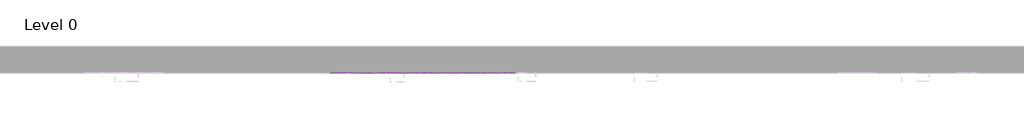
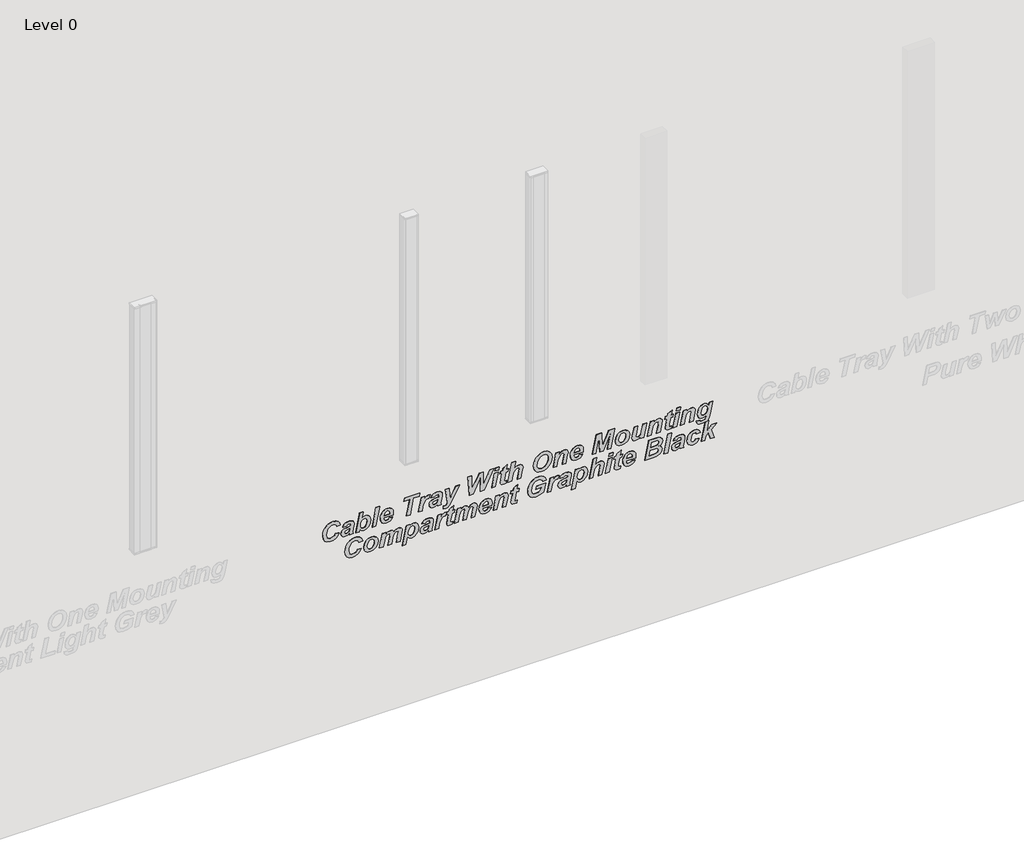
# One storey, part 4 of 5: 1 proxy.
"""IFC4 building model written with IfcOpenShell, lengths in millimetres."""

from ifc_helpers import new_model, si_unit, frame, origin, place, context, project, spatial, polyline, outline, extrude, element, save

model = new_model("IFC4")

# Units and contexts
model_context = context("Model", 3, world=origin())
ifc_project = project(units=[si_unit("LENGTHUNIT", "METRE", prefix="MILLI")], contexts=[model_context])

# Site, building, storey
site = spatial("IfcSite", under=ifc_project)
building = spatial("IfcBuilding", under=site)
storey = spatial("IfcBuildingStorey", under=building, Name="Level 0", Elevation=0.0)

# Proxy
placement = place(None, origin())
element("IfcBuildingElementProxy", 1, Name="200 mm Arial", ObjectType="200 mm Arial", at=placement, inside=storey, context=model_context, shape_type="SweptSolid", body=[
    extrude(outline(polyline([(1577.7191836, -4118.3645226), (1567.3722714, -4124.73078), (1559.9178443, -4133.7105047), (1553.9096598, -4156.3109512), (1556.3557164, -4168.4993812), (1563.693886, -4178.5021714), (1575.5242431, -4185.1846491), (1591.4468622, -4187.4121417), (1607.8670631, -4185.7008321), (1624.3151658, -4180.5669036), (1638.60088, -4172.5823425), (1648.5339158, -4162.3191357), (1654.3514381, -4150.4841283), (1656.2906122, -4137.7841655), (1654.881572, -4126.9722235), (1650.6544515, -4118.5691357), (1643.2930303, -4112.5376997), (1632.4810884, -4108.8407131), (1635.2340646, -4080.2692845), (1654.8118175, -4085.9938009), (1669.7950765, -4097.8846119), (1679.3095854, -4115.1697681), (1682.4810884, -4137.0773202), (1679.6769589, -4157.8408991), (1671.2645705, -4176.9768738), (1657.5601434, -4193.3040687), (1638.8798979, -4205.6413083), (1616.6235735, -4213.3980047), (1592.1909098, -4215.9835702), (1564.4844366, -4212.1796268), (1544.2370408, -4200.7677964), (1531.8486479, -4182.5944333), (1527.7191836, -4158.5058917), (1530.6953741, -4136.0356536), (1539.6239455, -4116.6160107), (1554.1886777, -4100.9631089), (1574.0733503, -4089.793094), (1577.7191836, -4118.3645226)])), frame((0.0, 4018.0812827, 0.0), z_axis=(0.0, 1.0, 0.0), x_axis=(0.0, 0.0, 1.0)), (0.0, 0.0, 1.0), 3.0),
    extrude(outline(polyline([(1608.6715646, -4035.0311893), (1617.4699277, -4028.8927964), (1620.5763265, -4016.5788083), (1617.3211181, -4005.4552964), (1609.2296003, -4001.6978559), (1599.147755, -4003.6323797), (1594.9810884, -4031.5341655), (1591.2189976, -4052.4930568), (1583.8017729, -4065.8905643), (1573.0084321, -4073.1031759), (1559.1179931, -4075.5073797), (1546.5435884, -4073.3403411), (1536.4989455, -4066.839225), (1529.9141241, -4057.0084958), (1527.7191836, -4044.8526178), (1531.4394217, -4028.2231536), (1542.2281122, -4013.6026178), (1530.100136, -4011.2216655), (1530.100136, -3982.1294036), (1545.6507312, -3985.0311893), (1573.0316836, -3980.4924988), (1602.2541539, -3974.0378857), (1612.7638265, -3973.1264274), (1624.0687, -3975.6329378), (1633.5041539, -3983.152469), (1639.8797119, -3995.9082354), (1642.0048979, -4014.1234512), (1639.9541167, -4032.2735628), (1633.8017729, -4046.4709214), (1624.0035958, -4056.8643366), (1611.0153146, -4063.6026178), (1608.6715646, -4035.0311893)]), holes=[polyline([(1580.100136, -4007.761844), (1576.2310884, -4008.6174988), (1560.568886, -4013.5840167), (1552.3471598, -4022.0289571), (1549.147755, -4034.0639274), (1552.6447789, -4043.401725), (1561.2385289, -4046.9359512), (1571.0599574, -4042.3228559), (1578.7980527, -4014.5698797), (1580.100136, -4007.761844)])]), frame((0.0, 4018.0812827, 0.0), z_axis=(0.0, 1.0, 0.0), x_axis=(0.0, 0.0, 1.0)), (0.0, 0.0, 1.0), 3.0),
    extrude(outline(polyline([(1530.100136, -3963.6026178), (1530.100136, -3936.9285107), (1547.3248384, -3933.1710702), (1532.6205973, -3919.4154899), (1527.7191836, -3899.5773202), (1531.9788562, -3881.1807428), (1545.036892, -3864.4396714), (1567.8605527, -3851.6978559), (1596.7668027, -3846.9359512), (1616.2329485, -3849.5075658), (1630.4349574, -3857.2224095), (1639.1124128, -3869.2062265), (1642.0048979, -3884.5847607), (1639.3635289, -3899.8191357), (1630.5465646, -3914.8302964), (1680.100136, -3903.8927964), (1680.100136, -3932.9850583), (1530.100136, -3963.6026178)]), holes=[polyline([(1574.1105527, -3925.5073797), (1594.116133, -3922.7916059), (1610.2340646, -3914.6442845), (1617.990761, -3905.9854303), (1620.5763265, -3895.7826774), (1618.9068696, -3887.9934289), (1613.8984991, -3881.4411595), (1605.9697417, -3876.9908247), (1595.5391241, -3875.5073797), (1571.7109991, -3879.9158619), (1554.5234991, -3890.964969), (1549.147755, -3904.9344631), (1550.8823161, -3912.6911595), (1556.0859991, -3919.3689869), (1564.0612595, -3923.9727815), (1574.1105527, -3925.5073797)])]), frame((0.0, 4018.0812827, 0.0), z_axis=(0.0, 1.0, 0.0), x_axis=(0.0, 0.0, 1.0)), (0.0, 0.0, 1.0), 3.0),
    extrude(outline(polyline([(1530.100136, -3837.4121417), (1530.100136, -3808.3198797), (1680.100136, -3777.7395226), (1680.100136, -3806.7945821), (1530.100136, -3837.4121417)])), frame((0.0, 4018.0812827, 0.0), z_axis=(0.0, 1.0, 0.0), x_axis=(0.0, 0.0, 1.0)), (0.0, 0.0, 1.0), 3.0),
    extrude(outline(polyline([(1575.3382312, -3675.1353559), (1594.6834693, -3673.1264274), (1614.5960437, -3676.0189125), (1629.5421003, -3684.6963678), (1638.8891985, -3698.2845375), (1642.0048979, -3715.9091655), (1640.5284284, -3730.4250695), (1636.0990199, -3743.1692101), (1628.7166725, -3754.1415873), (1618.381386, -3763.3422012), (1599.6685884, -3772.4660851), (1578.5004336, -3775.5073797), (1557.8298607, -3772.1173128), (1541.6514753, -3761.9471119), (1531.2022565, -3746.354664), (1527.7191836, -3726.6978559), (1529.6537074, -3711.6634437), (1535.4572789, -3698.1822309), (1545.1298979, -3686.7564497), (1558.6715646, -3677.8883321), (1563.4334693, -3704.0788083), (1552.7191836, -3713.6119184), (1549.147755, -3726.2886297), (1550.7707089, -3734.324344), (1555.6395705, -3741.0207726), (1563.1591018, -3745.5408619), (1572.7340646, -3747.0475583), (1575.3382312, -3746.9359512), (1575.3382312, -3675.1353559)]), holes=[polyline([(1592.0048979, -3701.6978559), (1592.0048979, -3744.0341655), (1604.411892, -3740.6115464), (1613.3590646, -3735.0311893), (1618.772011, -3727.9441357), (1620.5763265, -3720.0014274), (1618.9859247, -3712.4446937), (1614.2147193, -3706.589969), (1606.2627104, -3702.8371789), (1595.1298979, -3701.5862488), (1592.0048979, -3701.6978559)])]), frame((0.0, 4018.0812827, 0.0), z_axis=(0.0, 1.0, 0.0), x_axis=(0.0, 0.0, 1.0)), (0.0, 0.0, 1.0), 3.0),
    extrude(outline(polyline([(1530.100136, -3545.5594631), (1656.2906122, -3520.0758321), (1656.2906122, -3475.5073797), (1680.100136, -3470.745475), (1680.100136, -3587.4121417), (1656.2906122, -3592.1740464), (1656.2906122, -3549.168094), (1530.100136, -3574.651725), (1530.100136, -3545.5594631)])), frame((0.0, 4018.0812827, 0.0), z_axis=(0.0, 1.0, 0.0), x_axis=(0.0, 0.0, 1.0)), (0.0, 0.0, 1.0), 3.0),
    extrude(outline(polyline([(1639.6239455, -3460.5148202), (1530.100136, -3482.6502369), (1530.100136, -3453.5951774), (1563.9171003, -3446.7871417), (1594.5718622, -3438.0445821), (1610.0294515, -3425.730594), (1615.8144217, -3410.2544036), (1614.4007312, -3401.6978559), (1638.7682908, -3389.793094), (1642.0048979, -3403.1115464), (1636.1920259, -3420.0386297), (1618.7534098, -3435.7008321), (1639.6239455, -3431.4597607), (1639.6239455, -3460.5148202)])), frame((0.0, 4018.0812827, 0.0), z_axis=(0.0, 1.0, 0.0), x_axis=(0.0, 0.0, 1.0)), (0.0, 0.0, 1.0), 3.0),
    extrude(outline(polyline([(1608.6715646, -3358.8407131), (1617.4699277, -3352.7023202), (1620.5763265, -3340.3883321), (1617.3211181, -3329.2648202), (1609.2296003, -3325.5073797), (1599.147755, -3327.4419036), (1594.9810884, -3355.3436893), (1591.2189976, -3376.3025806), (1583.8017729, -3389.7000881), (1573.0084321, -3396.9126997), (1559.1179931, -3399.3169036), (1546.5435884, -3397.1498649), (1536.4989455, -3390.6487488), (1529.9141241, -3380.8180196), (1527.7191836, -3368.6621417), (1531.4394217, -3352.0326774), (1542.2281122, -3337.4121417), (1530.100136, -3335.0311893), (1530.100136, -3305.9389274), (1545.6507312, -3308.8407131), (1573.0316836, -3304.3020226), (1602.2541539, -3297.8474095), (1612.7638265, -3296.9359512), (1624.0687, -3299.4424616), (1633.5041539, -3306.9619928), (1639.8797119, -3319.7177592), (1642.0048979, -3337.932975), (1639.9541167, -3356.0830866), (1633.8017729, -3370.2804452), (1624.0035958, -3380.6738604), (1611.0153146, -3387.4121417), (1608.6715646, -3358.8407131)]), holes=[polyline([(1580.100136, -3331.5713678), (1576.2310884, -3332.4270226), (1560.568886, -3337.3935405), (1552.3471598, -3345.8384809), (1549.147755, -3357.8734512), (1552.6447789, -3367.2112488), (1561.2385289, -3370.745475), (1571.0599574, -3366.1323797), (1578.7980527, -3338.3794036), (1580.100136, -3331.5713678)])]), frame((0.0, 4018.0812827, 0.0), z_axis=(0.0, 1.0, 0.0), x_axis=(0.0, 0.0, 1.0)), (0.0, 0.0, 1.0), 3.0),
    extrude(outline(polyline([(1639.6239455, -3275.5073797), (1530.100136, -3258.8407131), (1514.0287074, -3268.2529155), (1508.6715646, -3279.9716655), (1510.1968622, -3289.793094), (1490.2191836, -3292.1740464), (1487.2429931, -3271.8987488), (1490.3679931, -3256.3295524), (1498.9803443, -3245.2432428), (1518.1953741, -3232.6502369), (1639.6239455, -3165.574344), (1639.6239455, -3196.9359512), (1589.1403146, -3220.8942845), (1556.2906122, -3236.4820821), (1584.1551955, -3239.8674988), (1639.6239455, -3246.6383321), (1639.6239455, -3275.5073797)])), frame((0.0, 4018.0812827, 0.0), z_axis=(0.0, 1.0, 0.0), x_axis=(0.0, 0.0, 1.0)), (0.0, 0.0, 1.0), 3.0),
    extrude(outline(polyline([(1530.100136, -2975.5073797), (1680.100136, -2904.0788083), (1680.100136, -2932.6502369), (1576.2310884, -2982.6502369), (1680.100136, -2985.0311893), (1680.100136, -3014.9419036), (1575.115017, -3070.745475), (1680.100136, -3073.1264274), (1680.100136, -3101.6978559), (1530.100136, -3092.1740464), (1530.100136, -3061.2216655), (1639.772755, -3008.8407131), (1530.100136, -3006.4597607), (1530.100136, -2975.5073797)])), frame((0.0, 4018.0812827, 0.0), z_axis=(0.0, 1.0, 0.0), x_axis=(0.0, 0.0, 1.0)), (0.0, 0.0, 1.0), 3.0),
    extrude(outline(polyline([(1639.6239455, -2898.386844), (1530.100136, -2920.745475), (1530.100136, -2891.6532131), (1639.6239455, -2869.2945821), (1639.6239455, -2898.386844)])), frame((0.0, 4018.0812827, 0.0), z_axis=(0.0, 1.0, 0.0), x_axis=(0.0, 0.0, 1.0)), (0.0, 0.0, 1.0), 3.0),
    extrude(outline(polyline([(1680.100136, -2890.1279155), (1656.2906122, -2895.0014274), (1656.2906122, -2865.9091655), (1680.100136, -2861.0356536), (1680.100136, -2890.1279155)])), frame((0.0, 4018.0812827, 0.0), z_axis=(0.0, 1.0, 0.0), x_axis=(0.0, 0.0, 1.0)), (0.0, 0.0, 1.0), 3.0),
    extrude(outline(polyline([(1618.1953741, -2856.4597607), (1618.1953741, -2840.574344), (1572.6596598, -2849.5773202), (1549.929005, -2854.0788083), (1540.6191092, -2852.3116952), (1533.5971598, -2847.0103559), (1529.1886777, -2837.8213678), (1527.7191836, -2824.3913083), (1529.1328741, -2808.8407131), (1549.147755, -2804.0788083), (1548.4781122, -2813.8630345), (1550.3754336, -2821.7127369), (1555.6581717, -2823.870475), (1569.7206717, -2821.043094), (1618.1953741, -2811.4076774), (1618.1953741, -2794.5549988), (1639.6239455, -2789.793094), (1639.6239455, -2807.1294036), (1675.3382312, -2799.9865464), (1656.2906122, -2832.8362488), (1639.6239455, -2836.3332726), (1639.6239455, -2851.6978559), (1618.1953741, -2856.4597607)])), frame((0.0, 4018.0812827, 0.0), z_axis=(0.0, 1.0, 0.0), x_axis=(0.0, 0.0, 1.0)), (0.0, 0.0, 1.0), 3.0),
    extrude(outline(polyline([(1530.100136, -2765.4627369), (1573.0316836, -2756.682975), (1598.7013265, -2750.0981536), (1615.4051955, -2736.5564869), (1620.5763265, -2722.2707726), (1617.1351062, -2712.9701774), (1607.9647193, -2709.5475583), (1594.3858503, -2712.2261297), (1530.100136, -2725.5073797), (1530.100136, -2696.4151178), (1593.1581717, -2683.3942845), (1612.9498384, -2679.339225), (1624.7197417, -2681.2876997), (1633.9877848, -2687.1331238), (1640.0006196, -2696.3360628), (1642.0048979, -2708.3570821), (1638.2474574, -2727.0698797), (1625.9706717, -2745.8942845), (1680.100136, -2734.8451774), (1680.100136, -2763.9374393), (1530.100136, -2794.5549988), (1530.100136, -2765.4627369)])), frame((0.0, 4018.0812827, 0.0), z_axis=(0.0, 1.0, 0.0), x_axis=(0.0, 0.0, 1.0)), (0.0, 0.0, 1.0), 3.0),
    extrude(outline(polyline([(1589.0287074, -2599.3169036), (1560.7176955, -2593.5133321), (1547.8270705, -2585.6822309), (1537.2057908, -2573.7960702), (1530.0908354, -2558.2268738), (1527.7191836, -2539.3466655), (1530.7046747, -2516.9508321), (1539.6611479, -2497.0103559), (1554.1514753, -2480.246033), (1573.7385289, -2467.3786595), (1596.2552699, -2459.1894854), (1619.5346598, -2456.4597607), (1645.1903518, -2460.6496789), (1665.2377848, -2473.2194333), (1678.1702625, -2492.5972235), (1682.4810884, -2517.2112488), (1680.3791539, -2536.44953), (1674.0733503, -2553.464969), (1664.1449649, -2568.0111), (1651.1752848, -2579.8414571), (1635.3782238, -2588.9699914), (1616.9676955, -2595.4106536), (1589.0287074, -2599.3169036)]), holes=[polyline([(1589.772755, -2570.745475), (1613.6427327, -2567.1600955), (1635.47588, -2556.4039571), (1651.0869292, -2539.9279527), (1656.2906122, -2519.182975), (1653.802703, -2505.6134065), (1646.3389753, -2494.6666059), (1634.5039678, -2487.4400434), (1618.9022193, -2485.0311893), (1603.021453, -2486.933161), (1586.7035586, -2492.6390762), (1572.2690348, -2501.2560777), (1562.03838, -2511.8913083), (1555.9418399, -2523.7867696), (1553.9096598, -2536.1844631), (1556.4859247, -2550.2004601), (1564.2147193, -2561.2216655), (1575.756758, -2568.3645226), (1589.772755, -2570.745475)])]), frame((0.0, 4018.0812827, 0.0), z_axis=(0.0, 1.0, 0.0), x_axis=(0.0, 0.0, 1.0)), (0.0, 0.0, 1.0), 3.0),
    extrude(outline(polyline([(1639.6239455, -2427.1814869), (1530.100136, -2449.3169036), (1530.100136, -2420.261844), (1574.5569812, -2411.2588678), (1600.6730527, -2402.8139274), (1615.1075765, -2390.7045524), (1620.5763265, -2376.6606536), (1617.1723086, -2367.6018738), (1607.8159098, -2364.3466655), (1591.3724574, -2367.620475), (1530.100136, -2380.2692845), (1530.100136, -2351.1770226), (1591.1492431, -2338.5654155), (1612.3546003, -2334.2127369), (1624.4546747, -2336.1379601), (1633.8947789, -2341.9136297), (1639.9773681, -2351.0189125), (1642.0048979, -2362.932975), (1637.8010289, -2381.9619928), (1623.7013265, -2401.3630345), (1639.6239455, -2398.1264274), (1639.6239455, -2427.1814869)])), frame((0.0, 4018.0812827, 0.0), z_axis=(0.0, 1.0, 0.0), x_axis=(0.0, 0.0, 1.0)), (0.0, 0.0, 1.0), 3.0),
    extrude(outline(polyline([(1575.3382312, -2217.9924988), (1594.6834693, -2215.9835702), (1614.5960437, -2218.8760553), (1629.5421003, -2227.5535107), (1638.8891985, -2241.1416803), (1642.0048979, -2258.7663083), (1640.5284284, -2273.2822123), (1636.0990199, -2286.026353), (1628.7166725, -2296.9987302), (1618.381386, -2306.199344), (1599.6685884, -2315.323228), (1578.5004336, -2318.3645226), (1557.8298607, -2314.9744556), (1541.6514753, -2304.8042547), (1531.2022565, -2289.2118068), (1527.7191836, -2269.5549988), (1529.6537074, -2254.5205866), (1535.4572789, -2241.0393738), (1545.1298979, -2229.6135925), (1558.6715646, -2220.745475), (1563.4334693, -2246.9359512), (1552.7191836, -2256.4690613), (1549.147755, -2269.1457726), (1550.7707089, -2277.1814869), (1555.6395705, -2283.8779155), (1563.1591018, -2288.3980047), (1572.7340646, -2289.9047012), (1575.3382312, -2289.793094), (1575.3382312, -2217.9924988)]), holes=[polyline([(1592.0048979, -2244.5549988), (1592.0048979, -2286.8913083), (1604.411892, -2283.4686893), (1613.3590646, -2277.8883321), (1618.772011, -2270.8012786), (1620.5763265, -2262.8585702), (1618.9859247, -2255.3018366), (1614.2147193, -2249.4471119), (1606.2627104, -2245.6943217), (1595.1298979, -2244.4433917), (1592.0048979, -2244.5549988)])]), frame((0.0, 4018.0812827, 0.0), z_axis=(0.0, 1.0, 0.0), x_axis=(0.0, 0.0, 1.0)), (0.0, 0.0, 1.0), 3.0),
    extrude(outline(polyline([(1530.100136, -2063.6026178), (1653.9096598, -2010.0311893), (1530.100136, -2035.0311893), (1530.100136, -2005.9389274), (1680.100136, -1977.776725), (1680.100136, -2023.7588678), (1572.6596598, -2070.745475), (1680.100136, -2075.3213678), (1680.100136, -2119.0713678), (1530.100136, -2149.7261297), (1530.100136, -2120.745475), (1653.9840646, -2098.1264274), (1530.100136, -2092.1740464), (1530.100136, -2063.6026178)])), frame((0.0, 4018.0812827, 0.0), z_axis=(0.0, 1.0, 0.0), x_axis=(0.0, 0.0, 1.0)), (0.0, 0.0, 1.0), 3.0),
    extrude(outline(polyline([(1575.5986479, -1973.1264274), (1551.3612967, -1967.3414571), (1541.3492059, -1960.0590911), (1533.8947789, -1949.7819333), (1529.2630824, -1937.1470747), (1527.7191836, -1922.7916059), (1532.5508428, -1897.5404899), (1547.0458205, -1877.9627369), (1568.162822, -1865.4069333), (1592.8605527, -1861.2216655), (1613.0707461, -1864.5698797), (1628.6864455, -1874.6145226), (1638.6752848, -1890.620847), (1642.0048979, -1911.8541059), (1637.4941092, -1936.6959958), (1623.9617431, -1956.2365464), (1602.849392, -1968.9039571), (1575.5986479, -1973.1264274)]), holes=[polyline([(1596.7296003, -1889.793094), (1576.6496152, -1892.7413827), (1559.8620408, -1901.5862488), (1551.8263265, -1910.8310405), (1549.147755, -1922.0475583), (1550.9241687, -1930.9296268), (1556.2534098, -1938.1561893), (1564.5960437, -1942.9552964), (1575.412636, -1944.5549988), (1596.7854039, -1940.4255345), (1614.475136, -1928.855594), (1619.0510289, -1920.8756833), (1620.5763265, -1911.8169036), (1618.9487223, -1902.995289), (1614.0659098, -1895.9500881), (1606.4766241, -1891.3323425), (1596.7296003, -1889.793094)])]), frame((0.0, 4018.0812827, 0.0), z_axis=(0.0, 1.0, 0.0), x_axis=(0.0, 0.0, 1.0)), (0.0, 0.0, 1.0), 3.0),
    extrude(outline(polyline([(1639.6239455, -1826.9582726), (1578.2028146, -1840.7231536), (1555.4721598, -1844.480594), (1544.0742803, -1842.6437265), (1535.2526658, -1837.1331238), (1529.6025542, -1828.4045152), (1527.7191836, -1816.9136297), (1532.0811628, -1797.3916803), (1545.1671003, -1779.3764274), (1530.100136, -1782.464225), (1530.100136, -1753.557975), (1639.6239455, -1731.199344), (1639.6239455, -1760.2916059), (1586.2013265, -1771.0802964), (1571.3947789, -1775.0981536), (1561.5547491, -1780.8459214), (1554.9141241, -1787.7655643), (1550.5800467, -1795.2990464), (1549.147755, -1802.7395226), (1552.5331717, -1811.3518738), (1560.6432908, -1814.7186893), (1575.115017, -1812.1145226), (1639.6239455, -1797.8660107), (1639.6239455, -1826.9582726)])), frame((0.0, 4018.0812827, 0.0), z_axis=(0.0, 1.0, 0.0), x_axis=(0.0, 0.0, 1.0)), (0.0, 0.0, 1.0), 3.0),
    extrude(outline(polyline([(1639.6239455, -1703.3719631), (1530.100136, -1725.5073797), (1530.100136, -1696.4523202), (1574.5569812, -1687.449344), (1600.6730527, -1679.0044036), (1615.1075765, -1666.8950286), (1620.5763265, -1652.8511297), (1617.1723086, -1643.79235), (1607.8159098, -1640.5371417), (1591.3724574, -1643.8109512), (1530.100136, -1656.4597607), (1530.100136, -1627.3674988), (1591.1492431, -1614.7558917), (1612.3546003, -1610.4032131), (1624.4546747, -1612.3284363), (1633.8947789, -1618.1041059), (1639.9773681, -1627.2093887), (1642.0048979, -1639.1234512), (1637.8010289, -1658.152469), (1623.7013265, -1677.5535107), (1639.6239455, -1674.3169036), (1639.6239455, -1703.3719631)])), frame((0.0, 4018.0812827, 0.0), z_axis=(0.0, 1.0, 0.0), x_axis=(0.0, 0.0, 1.0)), (0.0, 0.0, 1.0), 3.0),
    extrude(outline(polyline([(1618.1953741, -1592.1740464), (1618.1953741, -1576.2886297), (1572.6596598, -1585.2916059), (1549.929005, -1589.793094), (1540.6191092, -1588.0259809), (1533.5971598, -1582.7246417), (1529.1886777, -1573.5356536), (1527.7191836, -1560.105594), (1529.1328741, -1544.5549988), (1549.147755, -1539.793094), (1548.4781122, -1549.5773202), (1550.3754336, -1557.4270226), (1555.6581717, -1559.5847607), (1569.7206717, -1556.7573797), (1618.1953741, -1547.1219631), (1618.1953741, -1530.2692845), (1639.6239455, -1525.5073797), (1639.6239455, -1542.8436893), (1675.3382312, -1535.7008321), (1656.2906122, -1568.5505345), (1639.6239455, -1572.0475583), (1639.6239455, -1587.4121417), (1618.1953741, -1592.1740464)])), frame((0.0, 4018.0812827, 0.0), z_axis=(0.0, 1.0, 0.0), x_axis=(0.0, 0.0, 1.0)), (0.0, 0.0, 1.0), 3.0),
    extrude(outline(polyline([(1639.6239455, -1507.9106536), (1530.100136, -1530.2692845), (1530.100136, -1501.1770226), (1639.6239455, -1478.8183917), (1639.6239455, -1507.9106536)])), frame((0.0, 4018.0812827, 0.0), z_axis=(0.0, 1.0, 0.0), x_axis=(0.0, 0.0, 1.0)), (0.0, 0.0, 1.0), 3.0),
    extrude(outline(polyline([(1680.100136, -1499.651725), (1656.2906122, -1504.5252369), (1656.2906122, -1475.432975), (1680.100136, -1470.5594631), (1680.100136, -1499.651725)])), frame((0.0, 4018.0812827, 0.0), z_axis=(0.0, 1.0, 0.0), x_axis=(0.0, 0.0, 1.0)), (0.0, 0.0, 1.0), 3.0),
    extrude(outline(polyline([(1639.6239455, -1450.9910107), (1530.100136, -1473.1264274), (1530.100136, -1444.0713678), (1574.5569812, -1435.0683917), (1600.6730527, -1426.6234512), (1615.1075765, -1414.5140762), (1620.5763265, -1400.4701774), (1617.1723086, -1391.4113976), (1607.8159098, -1388.1561893), (1591.3724574, -1391.4299988), (1530.100136, -1404.0788083), (1530.100136, -1374.9865464), (1591.1492431, -1362.3749393), (1612.3546003, -1358.0222607), (1624.4546747, -1359.9474839), (1633.8947789, -1365.7231536), (1639.9773681, -1374.8284363), (1642.0048979, -1386.7424988), (1637.8010289, -1405.7715167), (1623.7013265, -1425.1725583), (1639.6239455, -1421.9359512), (1639.6239455, -1450.9910107)])), frame((0.0, 4018.0812827, 0.0), z_axis=(0.0, 1.0, 0.0), x_axis=(0.0, 0.0, 1.0)), (0.0, 0.0, 1.0), 3.0),
    extrude(outline(polyline([(1520.5763265, -1350.0981536), (1516.8560884, -1350.3957726), (1503.2028146, -1347.3033247), (1494.0882312, -1338.0259809), (1488.9543027, -1322.6939497), (1487.2429931, -1301.4374393), (1488.8240943, -1283.0036595), (1494.0324277, -1268.2529155), (1502.9982015, -1257.9106536), (1517.3583205, -1250.6375881), (1547.4736479, -1242.8436893), (1639.6239455, -1223.870475), (1639.6239455, -1252.9255345), (1620.3159098, -1256.9061893), (1636.2943324, -1270.3920524), (1642.0048979, -1289.4582726), (1639.9541167, -1302.5674616), (1633.8017729, -1315.4069333), (1623.6501732, -1326.6932056), (1609.6016241, -1335.1427964), (1592.8047491, -1340.4162339), (1574.4081717, -1342.1740464), (1555.2907982, -1339.5884809), (1541.3910586, -1331.8317845), (1532.9228667, -1320.0386297), (1530.100136, -1305.3436893), (1533.2344366, -1288.8630345), (1542.6373384, -1272.9032131), (1537.5406122, -1273.9820821), (1520.9483503, -1278.2975583), (1512.1685884, -1285.3288083), (1508.6715646, -1300.6933917), (1509.8248384, -1312.54235), (1512.615017, -1318.8109512), (1517.4885289, -1320.745475), (1520.5763265, -1350.0981536)]), holes=[polyline([(1576.975136, -1313.6026178), (1595.0182908, -1310.2916059), (1614.3263265, -1299.2424988), (1620.5763265, -1284.5475583), (1618.8045631, -1276.8838678), (1613.4892729, -1270.1874393), (1605.2814976, -1265.5278411), (1594.8322789, -1263.9746417), (1573.9989455, -1267.8064869), (1557.3694812, -1278.855594), (1551.5287074, -1293.7365464), (1553.1563116, -1301.5443961), (1558.0391241, -1307.9292547), (1566.0283354, -1312.1842771), (1576.975136, -1313.6026178)])]), frame((0.0, 4018.0812827, 0.0), z_axis=(0.0, 1.0, 0.0), x_axis=(0.0, 0.0, 1.0)), (0.0, 0.0, 1.0), 3.0),
    extrude(outline(polyline([(1389.6239455, -3946.9359512), (1379.2770333, -3953.3022086), (1371.8226062, -3962.2819333), (1365.8144217, -3984.8823797), (1368.2604783, -3997.0708098), (1375.5986479, -4007.0736), (1387.429005, -4013.7560777), (1403.3516241, -4015.9835702), (1419.771825, -4014.2722607), (1436.2199277, -4009.1383321), (1450.505642, -4001.1537711), (1460.4386777, -3990.8905643), (1466.2562, -3979.0555568), (1468.1953741, -3966.355594), (1466.7863339, -3955.5436521), (1462.5592134, -3947.1405643), (1455.1977923, -3941.1091283), (1444.3858503, -3937.4121417), (1447.1388265, -3908.8407131), (1466.7165795, -3914.5652295), (1481.6998384, -3926.4560405), (1491.2143473, -3943.7411967), (1494.3858503, -3965.6487488), (1491.5817208, -3986.4123277), (1483.1693324, -4005.5483024), (1469.4649053, -4021.8754973), (1450.7846598, -4034.2127369), (1428.5283354, -4041.9694333), (1404.0956717, -4044.5549988), (1376.3891985, -4040.7510553), (1356.1418027, -4029.339225), (1343.7534098, -4011.1658619), (1339.6239455, -3987.0773202), (1342.600136, -3964.6070821), (1351.5287074, -3945.1874393), (1366.0934396, -3929.5345375), (1385.9781122, -3918.3645226), (1389.6239455, -3946.9359512)])), frame((0.0, 4018.0812827, 0.0), z_axis=(0.0, 1.0, 0.0), x_axis=(0.0, 0.0, 1.0)), (0.0, 0.0, 1.0), 3.0),
    extrude(outline(polyline([(1387.5034098, -3901.6978559), (1363.2660586, -3895.9128857), (1353.2539678, -3888.6305196), (1345.7995408, -3878.3533619), (1341.1678443, -3865.7185033), (1339.6239455, -3851.3630345), (1344.4556048, -3826.1119184), (1358.9505824, -3806.5341655), (1380.0675839, -3793.9783619), (1404.7653146, -3789.793094), (1424.975508, -3793.1413083), (1440.5912074, -3803.1859512), (1450.5800467, -3819.1922756), (1453.9096598, -3840.4255345), (1449.3988711, -3865.2674244), (1435.866505, -3884.807975), (1414.7541539, -3897.4753857), (1387.5034098, -3901.6978559)]), holes=[polyline([(1408.6343622, -3818.3645226), (1388.5543771, -3821.3128113), (1371.7668027, -3830.1576774), (1363.7310884, -3839.402469), (1361.052517, -3850.6189869), (1362.8289306, -3859.5010553), (1368.1581717, -3866.7276178), (1376.5008056, -3871.526725), (1387.3173979, -3873.1264274), (1408.6901658, -3868.9969631), (1426.3798979, -3857.4270226), (1430.9557908, -3849.4471119), (1432.4810884, -3840.3883321), (1430.8534842, -3831.5667175), (1425.9706717, -3824.5215167), (1418.381386, -3819.9037711), (1408.6343622, -3818.3645226)])]), frame((0.0, 4018.0812827, 0.0), z_axis=(0.0, 1.0, 0.0), x_axis=(0.0, 0.0, 1.0)), (0.0, 0.0, 1.0), 3.0),
    extrude(outline(polyline([(1451.5287074, -3758.1338678), (1342.0048979, -3780.2692845), (1342.0048979, -3751.214225), (1391.5584693, -3741.1695821), (1408.4855527, -3735.9984512), (1421.5807908, -3729.5252369), (1429.5793027, -3720.745475), (1432.4810884, -3711.0356536), (1429.709511, -3703.1301476), (1422.6224574, -3700.2469631), (1407.8531122, -3702.5907131), (1342.0048979, -3715.9835702), (1342.0048979, -3686.8913083), (1390.6284098, -3676.8466655), (1420.6507312, -3666.057975), (1429.5234991, -3656.7573797), (1432.4810884, -3646.2663083), (1429.5607015, -3638.0445821), (1421.5807908, -3635.2916059), (1407.4066836, -3638.230594), (1342.0048979, -3651.6978559), (1342.0048979, -3622.605594), (1407.4066836, -3609.1383321), (1426.4171003, -3605.2320821), (1437.6196673, -3607.0456982), (1446.3761777, -3612.4865464), (1452.0262893, -3621.182603), (1453.9096598, -3632.761844), (1448.2734991, -3654.636844), (1434.2668027, -3670.7826774), (1448.6827253, -3679.2834214), (1452.6029262, -3687.3330866), (1453.9096598, -3698.2008321), (1449.4825765, -3715.6022458), (1436.2013265, -3732.1666059), (1451.5287074, -3729.0788083), (1451.5287074, -3758.1338678)])), frame((0.0, 4018.0812827, 0.0), z_axis=(0.0, 1.0, 0.0), x_axis=(0.0, 0.0, 1.0)), (0.0, 0.0, 1.0), 3.0),
    extrude(outline(polyline([(1451.5287074, -3575.5073797), (1299.147755, -3606.4597607), (1299.147755, -3577.4047012), (1356.6998384, -3565.6859512), (1343.8929187, -3552.2279899), (1339.6239455, -3533.5802964), (1343.9673235, -3514.3466655), (1356.9974574, -3497.8660107), (1379.6351062, -3484.6684661), (1406.8486479, -3480.2692845), (1427.3797119, -3482.7711446), (1442.0979039, -3490.276725), (1450.9567208, -3501.8931684), (1453.9096598, -3516.7276178), (1450.6916539, -3532.7804452), (1439.9959693, -3548.8332726), (1451.5287074, -3546.4895226), (1451.5287074, -3575.5073797)]), holes=[polyline([(1388.3590646, -3559.324344), (1408.7831717, -3555.5297012), (1426.4729039, -3544.8340167), (1432.4810884, -3529.5252369), (1430.8395333, -3521.3128113), (1425.9148681, -3514.6814869), (1417.9024053, -3510.3009065), (1406.9974574, -3508.8407131), (1384.099392, -3513.2863976), (1366.3910586, -3524.5029155), (1361.052517, -3538.5282131), (1362.8428815, -3546.3825658), (1368.2139753, -3553.1301476), (1376.8309768, -3557.7757949), (1388.3590646, -3559.324344)])]), frame((0.0, 4018.0812827, 0.0), z_axis=(0.0, 1.0, 0.0), x_axis=(0.0, 0.0, 1.0)), (0.0, 0.0, 1.0), 3.0),
    extrude(outline(polyline([(1420.5763265, -3427.8883321), (1429.3746896, -3421.7499393), (1432.4810884, -3409.4359512), (1429.22588, -3398.3124393), (1421.1343622, -3394.5549988), (1411.052517, -3396.4895226), (1406.8858503, -3424.3913083), (1403.1237595, -3445.3501997), (1395.7065348, -3458.7477071), (1384.913194, -3465.9603187), (1371.022755, -3468.3645226), (1358.4483503, -3466.1974839), (1348.4037074, -3459.6963678), (1341.818886, -3449.8656387), (1339.6239455, -3437.7097607), (1343.3441836, -3421.0802964), (1354.1328741, -3406.4597607), (1342.0048979, -3404.0788083), (1342.0048979, -3374.9865464), (1357.5554931, -3377.8883321), (1384.9364455, -3373.3496417), (1414.1589158, -3366.8950286), (1424.6685884, -3365.9835702), (1435.9734619, -3368.4900806), (1445.4089158, -3376.0096119), (1451.7844738, -3388.7653783), (1453.9096598, -3406.980594), (1451.8588786, -3425.1307056), (1445.7065348, -3439.3280643), (1435.9083577, -3449.7214795), (1422.9200765, -3456.4597607), (1420.5763265, -3427.8883321)]), holes=[polyline([(1392.0048979, -3400.6189869), (1388.1358503, -3401.4746417), (1372.4736479, -3406.4411595), (1364.2519217, -3414.8861), (1361.052517, -3426.9210702), (1364.5495408, -3436.2588678), (1373.1432908, -3439.793094), (1382.9647193, -3435.1799988), (1390.7028146, -3407.4270226), (1392.0048979, -3400.6189869)])]), frame((0.0, 4018.0812827, 0.0), z_axis=(0.0, 1.0, 0.0), x_axis=(0.0, 0.0, 1.0)), (0.0, 0.0, 1.0), 3.0),
    extrude(outline(polyline([(1451.5287074, -3334.324344), (1342.0048979, -3356.4597607), (1342.0048979, -3327.4047012), (1375.8218622, -3320.5966655), (1406.4766241, -3311.8541059), (1421.9342134, -3299.5401178), (1427.7191836, -3284.0639274), (1426.3054931, -3275.5073797), (1450.6730527, -3263.6026178), (1453.9096598, -3276.9210702), (1448.0967878, -3293.8481536), (1430.6581717, -3309.5103559), (1451.5287074, -3305.2692845), (1451.5287074, -3334.324344)])), frame((0.0, 4018.0812827, 0.0), z_axis=(0.0, 1.0, 0.0), x_axis=(0.0, 0.0, 1.0)), (0.0, 0.0, 1.0), 3.0),
    extrude(outline(polyline([(1430.100136, -3268.3645226), (1430.100136, -3252.4791059), (1384.5644217, -3261.4820821), (1361.833767, -3265.9835702), (1352.5238711, -3264.2164571), (1345.5019217, -3258.9151178), (1341.0934396, -3249.7261297), (1339.6239455, -3236.2960702), (1341.037636, -3220.745475), (1361.052517, -3215.9835702), (1360.3828741, -3225.7677964), (1362.2801955, -3233.6174988), (1367.5629336, -3235.7752369), (1381.6254336, -3232.9478559), (1430.100136, -3223.3124393), (1430.100136, -3206.4597607), (1451.5287074, -3201.6978559), (1451.5287074, -3219.0341655), (1487.2429931, -3211.8913083), (1468.1953741, -3244.7410107), (1451.5287074, -3248.2380345), (1451.5287074, -3263.6026178), (1430.100136, -3268.3645226)])), frame((0.0, 4018.0812827, 0.0), z_axis=(0.0, 1.0, 0.0), x_axis=(0.0, 0.0, 1.0)), (0.0, 0.0, 1.0), 3.0),
    extrude(outline(polyline([(1451.5287074, -3184.324344), (1342.0048979, -3206.4597607), (1342.0048979, -3177.4047012), (1391.5584693, -3167.3600583), (1408.4855527, -3162.1889274), (1421.5807908, -3155.7157131), (1429.5793027, -3146.9359512), (1432.4810884, -3137.2261297), (1429.709511, -3129.3206238), (1422.6224574, -3126.4374393), (1407.8531122, -3128.7811893), (1342.0048979, -3142.1740464), (1342.0048979, -3113.0817845), (1390.6284098, -3103.0371417), (1420.6507312, -3092.2484512), (1429.5234991, -3082.9478559), (1432.4810884, -3072.4567845), (1429.5607015, -3064.2350583), (1421.5807908, -3061.4820821), (1407.4066836, -3064.4210702), (1342.0048979, -3077.8883321), (1342.0048979, -3048.7960702), (1407.4066836, -3035.3288083), (1426.4171003, -3031.4225583), (1437.6196673, -3033.2361744), (1446.3761777, -3038.6770226), (1452.0262893, -3047.3730792), (1453.9096598, -3058.9523202), (1448.2734991, -3080.8273202), (1434.2668027, -3096.9731536), (1448.6827253, -3105.4738976), (1452.6029262, -3113.5235628), (1453.9096598, -3124.3913083), (1449.4825765, -3141.792722), (1436.2013265, -3158.3570821), (1451.5287074, -3155.2692845), (1451.5287074, -3184.324344)])), frame((0.0, 4018.0812827, 0.0), z_axis=(0.0, 1.0, 0.0), x_axis=(0.0, 0.0, 1.0)), (0.0, 0.0, 1.0), 3.0),
    extrude(outline(polyline([(1387.2429931, -2917.9924988), (1406.5882312, -2915.9835702), (1426.5008056, -2918.8760553), (1441.4468622, -2927.5535107), (1450.7939604, -2941.1416803), (1453.9096598, -2958.7663083), (1452.4331903, -2973.2822123), (1448.0037818, -2986.026353), (1440.6214344, -2996.9987302), (1430.2861479, -3006.199344), (1411.5733503, -3015.323228), (1390.4051955, -3018.3645226), (1369.7346226, -3014.9744556), (1353.5562372, -3004.8042547), (1343.1070184, -2989.2118068), (1339.6239455, -2969.5549988), (1341.5584693, -2954.5205866), (1347.3620408, -2941.0393738), (1357.0346598, -2929.6135925), (1370.5763265, -2920.745475), (1375.3382312, -2946.9359512), (1364.6239455, -2956.4690613), (1361.052517, -2969.1457726), (1362.6754708, -2977.1814869), (1367.5443324, -2983.8779155), (1375.0638637, -2988.3980047), (1384.6388265, -2989.9047012), (1387.2429931, -2989.793094), (1387.2429931, -2917.9924988)]), holes=[polyline([(1403.9096598, -2944.5549988), (1403.9096598, -2986.8913083), (1416.3166539, -2983.4686893), (1425.2638265, -2977.8883321), (1430.6767729, -2970.8012786), (1432.4810884, -2962.8585702), (1430.8906866, -2955.3018366), (1426.1194812, -2949.4471119), (1418.1674723, -2945.6943217), (1407.0346598, -2944.4433917), (1403.9096598, -2944.5549988)])]), frame((0.0, 4018.0812827, 0.0), z_axis=(0.0, 1.0, 0.0), x_axis=(0.0, 0.0, 1.0)), (0.0, 0.0, 1.0), 3.0),
    extrude(outline(polyline([(1451.5287074, -2886.7052964), (1342.0048979, -2908.8407131), (1342.0048979, -2879.7856536), (1386.4617431, -2870.7826774), (1412.5778146, -2862.3377369), (1427.0123384, -2850.2283619), (1432.4810884, -2836.1844631), (1429.0770705, -2827.1256833), (1419.7206717, -2823.870475), (1403.2772193, -2827.1442845), (1342.0048979, -2839.793094), (1342.0048979, -2810.7008321), (1403.054005, -2798.089225), (1424.2593622, -2793.7365464), (1436.3594366, -2795.6617696), (1445.7995408, -2801.4374393), (1451.88213, -2810.542722), (1453.9096598, -2822.4567845), (1449.7057908, -2841.4858024), (1435.6060884, -2860.886844), (1451.5287074, -2857.6502369), (1451.5287074, -2886.7052964)])), frame((0.0, 4018.0812827, 0.0), z_axis=(0.0, 1.0, 0.0), x_axis=(0.0, 0.0, 1.0)), (0.0, 0.0, 1.0), 3.0),
    extrude(outline(polyline([(1430.100136, -2775.5073797), (1430.100136, -2759.6219631), (1384.5644217, -2768.6249393), (1361.833767, -2773.1264274), (1352.5238711, -2771.3593143), (1345.5019217, -2766.057975), (1341.0934396, -2756.8689869), (1339.6239455, -2743.4389274), (1341.037636, -2727.8883321), (1361.052517, -2723.1264274), (1360.3828741, -2732.9106536), (1362.2801955, -2740.7603559), (1367.5629336, -2742.918094), (1381.6254336, -2740.0907131), (1430.100136, -2730.4552964), (1430.100136, -2713.6026178), (1451.5287074, -2708.8407131), (1451.5287074, -2726.1770226), (1487.2429931, -2719.0341655), (1468.1953741, -2751.8838678), (1451.5287074, -2755.3808917), (1451.5287074, -2770.745475), (1430.100136, -2775.5073797)])), frame((0.0, 4018.0812827, 0.0), z_axis=(0.0, 1.0, 0.0), x_axis=(0.0, 0.0, 1.0)), (0.0, 0.0, 1.0), 3.0),
    extrude(outline(polyline([(1422.9572789, -2573.1264274), (1399.147755, -2580.2692845), (1399.147755, -2540.6859512), (1375.4870408, -2545.4850583), (1368.679005, -2563.0817845), (1365.8144217, -2582.9850583), (1368.037264, -2597.2242696), (1374.7057908, -2607.5758321), (1386.0153146, -2613.8816357), (1402.1611479, -2615.9835702), (1420.2973086, -2614.2071565), (1436.9825765, -2608.8779155), (1450.8590646, -2600.4050732), (1460.568886, -2589.1978559), (1466.2887521, -2576.0096119), (1468.1953741, -2561.5936893), (1466.693328, -2549.7865836), (1462.1871896, -2540.183719), (1454.7327625, -2532.8595003), (1444.3858503, -2527.8883321), (1447.4364455, -2499.3169036), (1467.6512893, -2507.0410479), (1482.3880824, -2520.0200286), (1491.3864083, -2538.1794408), (1494.3858503, -2561.4448797), (1491.0701881, -2585.6171268), (1481.1232015, -2606.4225583), (1465.1494292, -2623.3589422), (1443.7534098, -2635.9240464), (1423.2827997, -2642.3972607), (1401.9007312, -2644.5549988), (1373.1990943, -2639.5884809), (1352.1983503, -2624.6889274), (1342.7675467, -2606.9898946), (1339.6239455, -2582.9106536), (1345.036892, -2548.4612488), (1358.225136, -2519.9270226), (1422.9572789, -2506.7945821), (1422.9572789, -2573.1264274)])), frame((0.0, 4018.0812827, 0.0), z_axis=(0.0, 1.0, 0.0), x_axis=(0.0, 0.0, 1.0)), (0.0, 0.0, 1.0), 3.0),
    extrude(outline(polyline([(1451.5287074, -2472.4195821), (1342.0048979, -2494.5549988), (1342.0048979, -2465.4999393), (1375.8218622, -2458.6919036), (1406.4766241, -2449.949344), (1421.9342134, -2437.6353559), (1427.7191836, -2422.1591655), (1426.3054931, -2413.6026178), (1450.6730527, -2401.6978559), (1453.9096598, -2415.0163083), (1448.0967878, -2431.9433917), (1430.6581717, -2447.605594), (1451.5287074, -2443.3645226), (1451.5287074, -2472.4195821)])), frame((0.0, 4018.0812827, 0.0), z_axis=(0.0, 1.0, 0.0), x_axis=(0.0, 0.0, 1.0)), (0.0, 0.0, 1.0), 3.0),
    extrude(outline(polyline([(1420.5763265, -2370.745475), (1429.3746896, -2364.6070821), (1432.4810884, -2352.293094), (1429.22588, -2341.1695821), (1421.1343622, -2337.4121417), (1411.052517, -2339.3466655), (1406.8858503, -2367.2484512), (1403.1237595, -2388.2073425), (1395.7065348, -2401.60485), (1384.913194, -2408.8174616), (1371.022755, -2411.2216655), (1358.4483503, -2409.0546268), (1348.4037074, -2402.5535107), (1341.818886, -2392.7227815), (1339.6239455, -2380.5669036), (1343.3441836, -2363.9374393), (1354.1328741, -2349.3169036), (1342.0048979, -2346.9359512), (1342.0048979, -2317.8436893), (1357.5554931, -2320.745475), (1384.9364455, -2316.2067845), (1414.1589158, -2309.7521714), (1424.6685884, -2308.8407131), (1435.9734619, -2311.3472235), (1445.4089158, -2318.8667547), (1451.7844738, -2331.6225211), (1453.9096598, -2349.8377369), (1451.8588786, -2367.9878485), (1445.7065348, -2382.1852071), (1435.9083577, -2392.5786223), (1422.9200765, -2399.3169036), (1420.5763265, -2370.745475)]), holes=[polyline([(1392.0048979, -2343.4761297), (1388.1358503, -2344.3317845), (1372.4736479, -2349.2983024), (1364.2519217, -2357.7432428), (1361.052517, -2369.7782131), (1364.5495408, -2379.1160107), (1373.1432908, -2382.6502369), (1382.9647193, -2378.0371417), (1390.7028146, -2350.2841655), (1392.0048979, -2343.4761297)])]), frame((0.0, 4018.0812827, 0.0), z_axis=(0.0, 1.0, 0.0), x_axis=(0.0, 0.0, 1.0)), (0.0, 0.0, 1.0), 3.0),
    extrude(outline(polyline([(1451.5287074, -2277.8883321), (1299.147755, -2308.8407131), (1299.147755, -2279.7856536), (1356.6998384, -2268.0669036), (1343.8929187, -2254.6089422), (1339.6239455, -2235.9612488), (1343.9673235, -2216.7276178), (1356.9974574, -2200.2469631), (1379.6351062, -2187.0494184), (1406.8486479, -2182.6502369), (1427.3797119, -2185.152097), (1442.0979039, -2192.6576774), (1450.9567208, -2204.2741208), (1453.9096598, -2219.1085702), (1450.6916539, -2235.1613976), (1439.9959693, -2251.214225), (1451.5287074, -2248.870475), (1451.5287074, -2277.8883321)]), holes=[polyline([(1388.3590646, -2261.7052964), (1408.7831717, -2257.9106536), (1426.4729039, -2247.214969), (1432.4810884, -2231.9061893), (1430.8395333, -2223.6937637), (1425.9148681, -2217.0624393), (1417.9024053, -2212.6818589), (1406.9974574, -2211.2216655), (1384.099392, -2215.66735), (1366.3910586, -2226.8838678), (1361.052517, -2240.9091655), (1362.8428815, -2248.7635181), (1368.2139753, -2255.5111), (1376.8309768, -2260.1567473), (1388.3590646, -2261.7052964)])]), frame((0.0, 4018.0812827, 0.0), z_axis=(0.0, 1.0, 0.0), x_axis=(0.0, 0.0, 1.0)), (0.0, 0.0, 1.0), 3.0),
    extrude(outline(polyline([(1342.0048979, -2144.0341655), (1384.9364455, -2135.2544036), (1410.6060884, -2128.6695821), (1427.3099574, -2115.1279155), (1432.4810884, -2100.8422012), (1429.0398681, -2091.5416059), (1419.8694812, -2088.1189869), (1406.2906122, -2090.7975583), (1342.0048979, -2104.0788083), (1342.0048979, -2074.9865464), (1405.0629336, -2061.9657131), (1424.8546003, -2057.9106536), (1436.6245036, -2059.8591283), (1445.8925467, -2065.7045524), (1451.9053815, -2074.9074914), (1453.9096598, -2086.9285107), (1450.1522193, -2105.6413083), (1437.8754336, -2124.4657131), (1492.0048979, -2113.4166059), (1492.0048979, -2142.5088678), (1342.0048979, -2173.1264274), (1342.0048979, -2144.0341655)])), frame((0.0, 4018.0812827, 0.0), z_axis=(0.0, 1.0, 0.0), x_axis=(0.0, 0.0, 1.0)), (0.0, 0.0, 1.0), 3.0),
    extrude(outline(polyline([(1492.0048979, -2016.3183917), (1468.1953741, -2021.1919036), (1468.1953741, -1992.0996417), (1492.0048979, -1987.2261297), (1492.0048979, -2016.3183917)])), frame((0.0, 4018.0812827, 0.0), z_axis=(0.0, 1.0, 0.0), x_axis=(0.0, 0.0, 1.0)), (0.0, 0.0, 1.0), 3.0),
    extrude(outline(polyline([(1451.5287074, -2024.5773202), (1342.0048979, -2046.9359512), (1342.0048979, -2017.8436893), (1451.5287074, -1995.4850583), (1451.5287074, -2024.5773202)])), frame((0.0, 4018.0812827, 0.0), z_axis=(0.0, 1.0, 0.0), x_axis=(0.0, 0.0, 1.0)), (0.0, 0.0, 1.0), 3.0),
    extrude(outline(polyline([(1430.100136, -1982.6502369), (1430.100136, -1966.7648202), (1384.5644217, -1975.7677964), (1361.833767, -1980.2692845), (1352.5238711, -1978.5021714), (1345.5019217, -1973.2008321), (1341.0934396, -1964.011844), (1339.6239455, -1950.5817845), (1341.037636, -1935.0311893), (1361.052517, -1930.2692845), (1360.3828741, -1940.0535107), (1362.2801955, -1947.9032131), (1367.5629336, -1950.0609512), (1381.6254336, -1947.2335702), (1430.100136, -1937.5981536), (1430.100136, -1920.745475), (1451.5287074, -1915.9835702), (1451.5287074, -1933.3198797), (1487.2429931, -1926.1770226), (1468.1953741, -1959.026725), (1451.5287074, -1962.5237488), (1451.5287074, -1977.8883321), (1430.100136, -1982.6502369)])), frame((0.0, 4018.0812827, 0.0), z_axis=(0.0, 1.0, 0.0), x_axis=(0.0, 0.0, 1.0)), (0.0, 0.0, 1.0), 3.0),
    extrude(outline(polyline([(1387.2429931, -1815.6115464), (1406.5882312, -1813.6026178), (1426.5008056, -1816.495103), (1441.4468622, -1825.1725583), (1450.7939604, -1838.760728), (1453.9096598, -1856.3853559), (1452.4331903, -1870.90126), (1448.0037818, -1883.6454006), (1440.6214344, -1894.6177778), (1430.2861479, -1903.8183917), (1411.5733503, -1912.9422756), (1390.4051955, -1915.9835702), (1369.7346226, -1912.5935033), (1353.5562372, -1902.4233024), (1343.1070184, -1886.8308545), (1339.6239455, -1867.1740464), (1341.5584693, -1852.1396342), (1347.3620408, -1838.6584214), (1357.0346598, -1827.2326402), (1370.5763265, -1818.3645226), (1375.3382312, -1844.5549988), (1364.6239455, -1854.0881089), (1361.052517, -1866.7648202), (1362.6754708, -1874.8005345), (1367.5443324, -1881.4969631), (1375.0638637, -1886.0170524), (1384.6388265, -1887.5237488), (1387.2429931, -1887.4121417), (1387.2429931, -1815.6115464)]), holes=[polyline([(1403.9096598, -1842.1740464), (1403.9096598, -1884.5103559), (1416.3166539, -1881.0877369), (1425.2638265, -1875.5073797), (1430.6767729, -1868.4203262), (1432.4810884, -1860.4776178), (1430.8906866, -1852.9208842), (1426.1194812, -1847.0661595), (1418.1674723, -1843.3133693), (1407.0346598, -1842.0624393), (1403.9096598, -1842.1740464)])]), frame((0.0, 4018.0812827, 0.0), z_axis=(0.0, 1.0, 0.0), x_axis=(0.0, 0.0, 1.0)), (0.0, 0.0, 1.0), 3.0),
    extrude(outline(polyline([(1342.0048979, -1746.9359512), (1342.0048979, -1677.8883321), (1343.3302327, -1657.4037711), (1347.3062372, -1641.7834214), (1354.3002848, -1630.0181684), (1364.6797491, -1621.0988976), (1377.0913934, -1615.4766878), (1390.1819812, -1613.6026178), (1408.4669515, -1619.3689869), (1415.3261405, -1626.260728), (1419.7206717, -1635.4032131), (1425.5660958, -1623.5961074), (1433.6529634, -1615.3325286), (1443.6929559, -1610.463667), (1455.397755, -1608.8407131), (1472.4736479, -1612.7841655), (1484.8062372, -1624.2797012), (1490.9632312, -1642.7320821), (1492.0048979, -1665.7603559), (1492.0048979, -1716.3183917), (1342.0048979, -1746.9359512)]), holes=[polyline([(1365.8144217, -1713.0073797), (1406.2906122, -1704.7484512), (1406.2906122, -1666.839225), (1405.0350318, -1655.4552964), (1401.2682908, -1647.8660107), (1388.5450765, -1642.1740464), (1376.491505, -1646.1174988), (1368.3069812, -1656.6271714), (1365.8144217, -1682.4270226), (1365.8144217, -1713.0073797)]), polyline([(1430.100136, -1699.9121417), (1468.1953741, -1692.136844), (1468.1953741, -1667.3228559), (1467.5257312, -1650.4701774), (1462.2615943, -1640.7975583), (1452.1611479, -1637.4121417), (1440.4237967, -1641.0207726), (1432.5182908, -1651.8466655), (1430.100136, -1675.5073797), (1430.100136, -1699.9121417)])]), frame((0.0, 4018.0812827, 0.0), z_axis=(0.0, 1.0, 0.0), x_axis=(0.0, 0.0, 1.0)), (0.0, 0.0, 1.0), 3.0),
    extrude(outline(polyline([(1342.0048979, -1599.3169036), (1342.0048979, -1570.2246417), (1492.0048979, -1539.6442845), (1492.0048979, -1568.699344), (1342.0048979, -1599.3169036)])), frame((0.0, 4018.0812827, 0.0), z_axis=(0.0, 1.0, 0.0), x_axis=(0.0, 0.0, 1.0)), (0.0, 0.0, 1.0), 3.0),
    extrude(outline(polyline([(1420.5763265, -1499.3169036), (1429.3746896, -1493.1785107), (1432.4810884, -1480.8645226), (1429.22588, -1469.7410107), (1421.1343622, -1465.9835702), (1411.052517, -1467.918094), (1406.8858503, -1495.8198797), (1403.1237595, -1516.7787711), (1395.7065348, -1530.1762786), (1384.913194, -1537.3888902), (1371.022755, -1539.793094), (1358.4483503, -1537.6260553), (1348.4037074, -1531.1249393), (1341.818886, -1521.2942101), (1339.6239455, -1509.1383321), (1343.3441836, -1492.5088678), (1354.1328741, -1477.8883321), (1342.0048979, -1475.5073797), (1342.0048979, -1446.4151178), (1357.5554931, -1449.3169036), (1384.9364455, -1444.7782131), (1414.1589158, -1438.3236), (1424.6685884, -1437.4121417), (1435.9734619, -1439.9186521), (1445.4089158, -1447.4381833), (1451.7844738, -1460.1939497), (1453.9096598, -1478.4091655), (1451.8588786, -1496.5592771), (1445.7065348, -1510.7566357), (1435.9083577, -1521.1500509), (1422.9200765, -1527.8883321), (1420.5763265, -1499.3169036)]), holes=[polyline([(1392.0048979, -1472.0475583), (1388.1358503, -1472.9032131), (1372.4736479, -1477.8697309), (1364.2519217, -1486.3146714), (1361.052517, -1498.3496417), (1364.5495408, -1507.6874393), (1373.1432908, -1511.2216655), (1382.9647193, -1506.6085702), (1390.7028146, -1478.855594), (1392.0048979, -1472.0475583)])]), frame((0.0, 4018.0812827, 0.0), z_axis=(0.0, 1.0, 0.0), x_axis=(0.0, 0.0, 1.0)), (0.0, 0.0, 1.0), 3.0),
    extrude(outline(polyline([(1377.7191836, -1356.4597607), (1365.2191836, -1366.1323797), (1361.052517, -1379.0044036), (1366.4468622, -1390.1093143), (1381.8114455, -1394.5549988), (1406.2906122, -1390.8905643), (1425.9148681, -1380.3622905), (1430.8395333, -1373.2426848), (1432.4810884, -1365.6115464), (1428.4260289, -1354.5066357), (1415.8144217, -1349.3169036), (1418.6046003, -1320.745475), (1432.9461181, -1324.5540687), (1444.1998384, -1333.2268738), (1451.4822045, -1346.215155), (1453.9096598, -1362.9701774), (1451.6356643, -1379.4229303), (1444.8136777, -1394.480594), (1434.0342878, -1407.0363976), (1419.8880824, -1415.9835702), (1403.5701881, -1421.3407131), (1386.2757312, -1423.1264274), (1366.8421375, -1420.1688381), (1352.068142, -1411.2960702), (1342.7349946, -1397.3823797), (1339.6239455, -1379.3020226), (1341.8142357, -1362.6632577), (1348.3851062, -1348.1636297), (1359.1598458, -1336.3797756), (1373.9617431, -1327.8883321), (1377.7191836, -1356.4597607)])), frame((0.0, 4018.0812827, 0.0), z_axis=(0.0, 1.0, 0.0), x_axis=(0.0, 0.0, 1.0)), (0.0, 0.0, 1.0), 3.0),
    extrude(outline(polyline([(1342.0048979, -1313.6026178), (1342.0048979, -1284.5103559), (1374.147755, -1277.9255345), (1391.8560884, -1258.8407131), (1342.0048979, -1243.4761297), (1342.0048979, -1213.6026178), (1412.615017, -1236.4820821), (1451.5287074, -1194.5549988), (1451.5287074, -1232.6502369), (1412.615017, -1270.0758321), (1492.0048979, -1253.8927964), (1492.0048979, -1282.9850583), (1342.0048979, -1313.6026178)])), frame((0.0, 4018.0812827, 0.0), z_axis=(0.0, 1.0, 0.0), x_axis=(0.0, 0.0, 1.0)), (0.0, 0.0, 1.0), 3.0),
])

save(model, "model.ifc")
